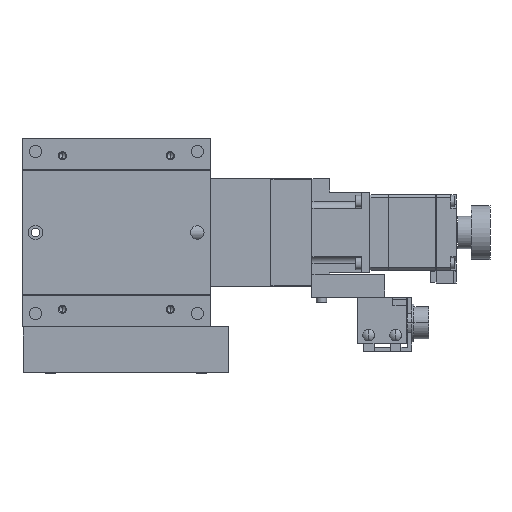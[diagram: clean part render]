
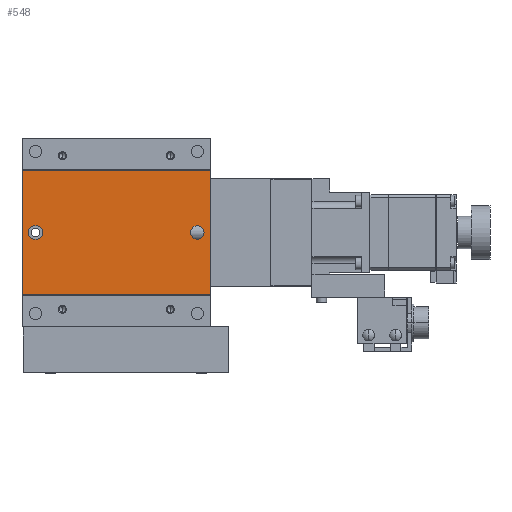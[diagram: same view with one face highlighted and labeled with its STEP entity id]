
A CAD part, front view. The second image highlights one B-rep face of the part: STEP entity #548.
In plain terms, the highlighted planar face has unit normal (0, -1, 0).
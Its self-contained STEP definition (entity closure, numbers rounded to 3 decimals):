
#548=ADVANCED_FACE('',(#1567,#1568,#1569),#1570,.F.);
#1567=FACE_BOUND('',#3189,.T.);
#1568=FACE_OUTER_BOUND('',#3190,.T.);
#1569=FACE_BOUND('',#3191,.T.);
#1570=PLANE('',#3192);
#3189=EDGE_LOOP('',(#6192,#6193,#6194,#6195));
#3190=EDGE_LOOP('',(#6196,#6197,#6198,#6199));
#3191=EDGE_LOOP('',(#6200,#6201,#6202));
#3192=AXIS2_PLACEMENT_3D('',#6203,#6204,#6205);
#6192=ORIENTED_EDGE('',*,*,#11078,.F.);
#6193=ORIENTED_EDGE('',*,*,#11079,.F.);
#6194=ORIENTED_EDGE('',*,*,#11080,.F.);
#6195=ORIENTED_EDGE('',*,*,#11081,.F.);
#6196=ORIENTED_EDGE('',*,*,#11067,.T.);
#6197=ORIENTED_EDGE('',*,*,#11082,.F.);
#6198=ORIENTED_EDGE('',*,*,#11083,.F.);
#6199=ORIENTED_EDGE('',*,*,#11084,.T.);
#6200=ORIENTED_EDGE('',*,*,#10964,.F.);
#6201=ORIENTED_EDGE('',*,*,#10963,.F.);
#6202=ORIENTED_EDGE('',*,*,#11085,.F.);
#6203=CARTESIAN_POINT('',(35.0,0.35,23.15));
#6204=DIRECTION('',(-0.0,1.0,0.));
#6205=DIRECTION('',(1.0,0.0,0.0));
#10963=EDGE_CURVE('',#13237,#13239,#13240,.F.);
#10964=EDGE_CURVE('',#13239,#13233,#13241,.F.);
#11067=EDGE_CURVE('',#13434,#13432,#13435,.T.);
#11078=EDGE_CURVE('',#13454,#13455,#13456,.F.);
#11079=EDGE_CURVE('',#13457,#13454,#13458,.T.);
#11080=EDGE_CURVE('',#13459,#13457,#13460,.F.);
#11081=EDGE_CURVE('',#13455,#13459,#13461,.T.);
#11082=EDGE_CURVE('',#13462,#13432,#13463,.T.);
#11083=EDGE_CURVE('',#13464,#13462,#13465,.T.);
#11084=EDGE_CURVE('',#13464,#13434,#13466,.T.);
#11085=EDGE_CURVE('',#13233,#13237,#13467,.F.);
#13233=VERTEX_POINT('',#16792);
#13237=VERTEX_POINT('',#16797);
#13239=VERTEX_POINT('',#16800);
#13240=CIRCLE('',#16801,2.5);
#13241=CIRCLE('',#16802,2.5);
#13432=VERTEX_POINT('',#17051);
#13434=VERTEX_POINT('',#17054);
#13435=LINE('',#17055,#17056);
#13454=VERTEX_POINT('',#17084);
#13455=VERTEX_POINT('',#17085);
#13456=CIRCLE('',#17086,2.5);
#13457=VERTEX_POINT('',#17087);
#13458=LINE('',#17088,#17089);
#13459=VERTEX_POINT('',#17090);
#13460=CIRCLE('',#17091,2.5);
#13461=LINE('',#17092,#17093);
#13462=VERTEX_POINT('',#17094);
#13463=LINE('',#17095,#17096);
#13464=VERTEX_POINT('',#17097);
#13465=LINE('',#17098,#17099);
#13466=LINE('',#17100,#17101);
#13467=CIRCLE('',#17102,2.5);
#16792=CARTESIAN_POINT('',(27.5,0.35,0.));
#16797=CARTESIAN_POINT('',(32.5,0.35,0.));
#16800=CARTESIAN_POINT('',(30.0,0.35,2.5));
#16801=AXIS2_PLACEMENT_3D('',#20965,#20966,#20967);
#16802=AXIS2_PLACEMENT_3D('',#20968,#20969,#20970);
#17051=CARTESIAN_POINT('',(-35.0,0.35,-23.15));
#17054=CARTESIAN_POINT('',(-35.0,0.35,23.15));
#17055=CARTESIAN_POINT('',(-35.0,0.35,23.15));
#17056=VECTOR('',#21159,1000.0);
#17084=CARTESIAN_POINT('',(-30.25,0.35,2.5));
#17085=CARTESIAN_POINT('',(-30.25,0.35,-2.5));
#17086=AXIS2_PLACEMENT_3D('',#21172,#21173,#21174);
#17087=CARTESIAN_POINT('',(-29.75,0.35,2.5));
#17088=CARTESIAN_POINT('',(35.0,0.35,2.5));
#17089=VECTOR('',#21175,1000.0);
#17090=CARTESIAN_POINT('',(-29.75,0.35,-2.5));
#17091=AXIS2_PLACEMENT_3D('',#21176,#21177,#21178);
#17092=CARTESIAN_POINT('',(35.0,0.35,-2.5));
#17093=VECTOR('',#21179,1000.0);
#17094=CARTESIAN_POINT('',(35.0,0.35,-23.15));
#17095=CARTESIAN_POINT('',(35.0,0.35,-23.15));
#17096=VECTOR('',#21180,1000.0);
#17097=CARTESIAN_POINT('',(35.0,0.35,23.15));
#17098=CARTESIAN_POINT('',(35.0,0.35,23.15));
#17099=VECTOR('',#21181,1000.0);
#17100=CARTESIAN_POINT('',(35.0,0.35,23.15));
#17101=VECTOR('',#21182,1000.0);
#17102=AXIS2_PLACEMENT_3D('',#21183,#21184,#21185);
#20965=CARTESIAN_POINT('',(30.0,0.35,0.0));
#20966=DIRECTION('',(0.0,1.0,0.));
#20967=DIRECTION('',(0.0,0.,1.0));
#20968=CARTESIAN_POINT('',(30.0,0.35,0.0));
#20969=DIRECTION('',(0.0,1.0,0.));
#20970=DIRECTION('',(0.0,0.,1.0));
#21159=DIRECTION('',(0.0,0.,-1.0));
#21172=CARTESIAN_POINT('',(-30.25,0.35,0.));
#21173=DIRECTION('',(0.0,1.0,0.));
#21174=DIRECTION('',(0.0,0.,1.0));
#21175=DIRECTION('',(-1.0,0.0,0.0));
#21176=CARTESIAN_POINT('',(-29.75,0.35,0.));
#21177=DIRECTION('',(0.0,1.0,0.));
#21178=DIRECTION('',(0.0,0.,1.0));
#21179=DIRECTION('',(1.0,0.0,0.0));
#21180=DIRECTION('',(-1.0,0.0,0.0));
#21181=DIRECTION('',(0.0,0.,-1.0));
#21182=DIRECTION('',(-1.0,0.0,0.0));
#21183=CARTESIAN_POINT('',(30.0,0.35,0.0));
#21184=DIRECTION('',(0.0,1.0,0.));
#21185=DIRECTION('',(0.0,0.,1.0));
